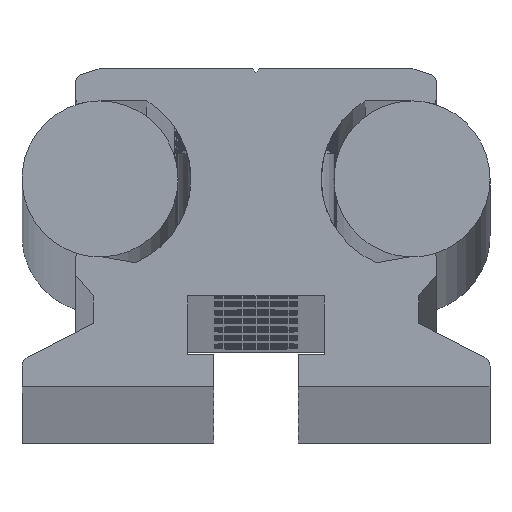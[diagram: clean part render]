
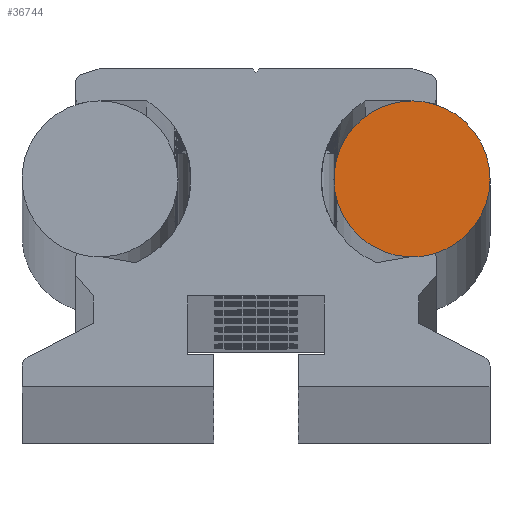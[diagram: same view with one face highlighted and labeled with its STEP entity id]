
A CAD part, top view. The second image highlights one B-rep face of the part: STEP entity #36744.
In plain terms, the highlighted planar face has unit normal (0, 0, 1).
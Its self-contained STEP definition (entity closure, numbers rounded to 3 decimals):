
#1808 = CARTESIAN_POINT ( 'NONE',  ( 12., 16., -0.5 ) ) ;
#1815 = DIRECTION ( 'NONE',  ( 0., 0., 1. ) ) ;
#1816 = DIRECTION ( 'NONE',  ( 1., 0., 0. ) ) ;
#1817 = CARTESIAN_POINT ( 'NONE',  ( 12., 16., -0.5 ) ) ;
#1824 = DIRECTION ( 'NONE',  ( 0., 0., 1. ) ) ;
#1825 = DIRECTION ( 'NONE',  ( 1., 0., 0. ) ) ;
#2879 = CARTESIAN_POINT ( 'NONE',  ( 12., 16., -0.5 ) ) ;
#2882 = DIRECTION ( 'NONE',  ( 0., 0., 1. ) ) ;
#2884 = DIRECTION ( 'NONE',  ( 1., 0., 0. ) ) ;
#2936 = CARTESIAN_POINT ( 'NONE',  ( 12., 16., -0.5 ) ) ;
#2962 = DIRECTION ( 'NONE',  ( 0., 0., -1. ) ) ;
#2964 = DIRECTION ( 'NONE',  ( 1., 0., 0. ) ) ;
#8704 = CIRCLE ( 'NONE', #11730, 6. ) ;
#8737 = CIRCLE ( 'NONE', #11751, 6. ) ;
#9656 = CIRCLE ( 'NONE', #12181, 6. ) ;
#9671 = CIRCLE ( 'NONE', #12191, 6. ) ;
#11730 = AXIS2_PLACEMENT_3D ( 'NONE', #2879, #2882, #2884 ) ;
#11751 = AXIS2_PLACEMENT_3D ( 'NONE', #2936, #2962, #2964 ) ;
#12181 = AXIS2_PLACEMENT_3D ( 'NONE', #1808, #1815, #1816 ) ;
#12191 = AXIS2_PLACEMENT_3D ( 'NONE', #1817, #1824, #1825 ) ;
#13617 = CARTESIAN_POINT ( 'NONE',  ( 12., 16., -0.5 ) ) ;
#13647 = PLANE ( 'NONE',  #24242 ) ;
#13660 = DIRECTION ( 'NONE',  ( 0., 0., 1. ) ) ;
#13664 = DIRECTION ( 'NONE',  ( 1., 0., 0. ) ) ;
#16546 = FACE_OUTER_BOUND ( 'NONE', #27055, .T. ) ;
#23313 = AXIS2_PLACEMENT_3D ( 'NONE', #23809, #23801, #23821 ) ;
#23801 = DIRECTION ( 'NONE',  ( 0., 0., -1. ) ) ;
#23809 = CARTESIAN_POINT ( 'NONE',  ( 12., 16., -0.5 ) ) ;
#23821 = DIRECTION ( 'NONE',  ( 1., 0., 0. ) ) ;
#24242 = AXIS2_PLACEMENT_3D ( 'NONE', #13617, #13660, #13664 ) ;
#27055 = EDGE_LOOP ( 'NONE', ( #33171, #33175, #33178, #33182, #33186 ) ) ;
#27709 = VERTEX_POINT ( 'NONE', #30172 ) ;
#27711 = VERTEX_POINT ( 'NONE', #30176 ) ;
#27725 = VERTEX_POINT ( 'NONE', #30200 ) ;
#28711 = VERTEX_POINT ( 'NONE', #44313 ) ;
#28714 = VERTEX_POINT ( 'NONE', #44317 ) ;
#30172 = CARTESIAN_POINT ( 'NONE',  ( 11.819, 10.003, -0.5 ) ) ;
#30176 = CARTESIAN_POINT ( 'NONE',  ( 12., 22., -0.5 ) ) ;
#30200 = CARTESIAN_POINT ( 'NONE',  ( 13.516, 21.805, -0.5 ) ) ;
#31274 = EDGE_CURVE ( 'NONE', #28711, #28714, #43576, .T. ) ;
#33171 = ORIENTED_EDGE ( 'NONE', *, *, #39848, .T. ) ;
#33175 = ORIENTED_EDGE ( 'NONE', *, *, #39471, .T. ) ;
#33178 = ORIENTED_EDGE ( 'NONE', *, *, #39851, .T. ) ;
#33182 = ORIENTED_EDGE ( 'NONE', *, *, #31274, .F. ) ;
#33186 = ORIENTED_EDGE ( 'NONE', *, *, #39483, .F. ) ;
#36744 = ADVANCED_FACE ( 'NONE', ( #16546 ), #13647, .T. ) ;
#39471 = EDGE_CURVE ( 'NONE', #27711, #27709, #8704, .T. ) ;
#39483 = EDGE_CURVE ( 'NONE', #27725, #28711, #8737, .T. ) ;
#39848 = EDGE_CURVE ( 'NONE', #27725, #27711, #9656, .T. ) ;
#39851 = EDGE_CURVE ( 'NONE', #27709, #28714, #9671, .T. ) ;
#43576 = CIRCLE ( 'NONE', #23313, 6. ) ;
#44313 = CARTESIAN_POINT ( 'NONE',  ( 18., 16., -0.5 ) ) ;
#44317 = CARTESIAN_POINT ( 'NONE',  ( 13.719, 10.251, -0.5 ) ) ;
